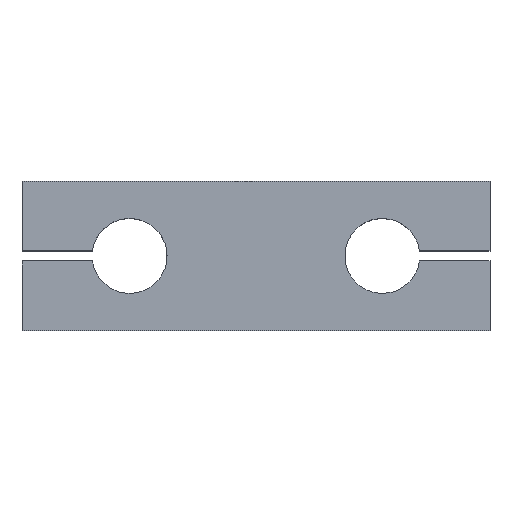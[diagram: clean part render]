
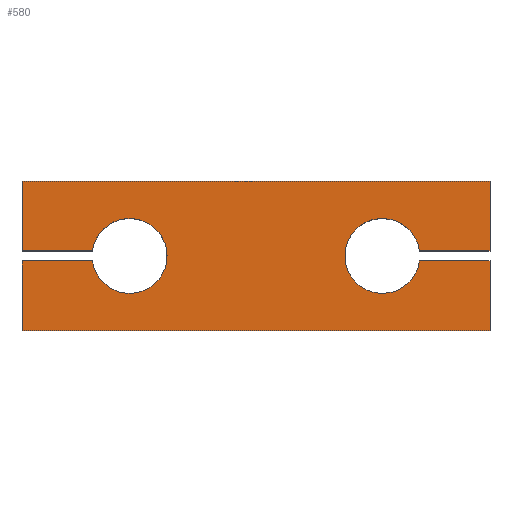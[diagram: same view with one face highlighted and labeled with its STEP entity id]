
A CAD part, top view. The second image highlights one B-rep face of the part: STEP entity #580.
In plain terms, the highlighted planar face has unit normal (0, 0, 1).
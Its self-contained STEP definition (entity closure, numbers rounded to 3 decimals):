
#12 = VECTOR ( 'NONE', #1127, 1000. ) ;
#26 = CARTESIAN_POINT ( 'NONE',  ( -50., -16., 9. ) ) ;
#41 = ORIENTED_EDGE ( 'NONE', *, *, #722, .T. ) ;
#43 = LINE ( 'NONE', #966, #486 ) ;
#46 = LINE ( 'NONE', #257, #1246 ) ;
#48 = VERTEX_POINT ( 'NONE', #976 ) ;
#63 = LINE ( 'NONE', #1301, #1327 ) ;
#81 = ORIENTED_EDGE ( 'NONE', *, *, #911, .T. ) ;
#85 = EDGE_CURVE ( 'NONE', #48, #597, #173, .T. ) ;
#98 = VERTEX_POINT ( 'NONE', #794 ) ;
#118 = CARTESIAN_POINT ( 'NONE',  ( -50., 16., 9. ) ) ;
#125 = DIRECTION ( 'NONE',  ( 1., 0., 0. ) ) ;
#129 = VERTEX_POINT ( 'NONE', #164 ) ;
#143 = CARTESIAN_POINT ( 'NONE',  ( 27., 0., 9. ) ) ;
#153 = ORIENTED_EDGE ( 'NONE', *, *, #890, .F. ) ;
#164 = CARTESIAN_POINT ( 'NONE',  ( -50., -16., 9. ) ) ;
#166 = FACE_OUTER_BOUND ( 'NONE', #469, .T. ) ;
#173 = LINE ( 'NONE', #489, #737 ) ;
#185 = AXIS2_PLACEMENT_3D ( 'NONE', #1215, #305, #706 ) ;
#188 = DIRECTION ( 'NONE',  ( 0., 0., 1. ) ) ;
#198 = VECTOR ( 'NONE', #945, 1000. ) ;
#219 = DIRECTION ( 'NONE',  ( 0., 1., 0. ) ) ;
#223 = VERTEX_POINT ( 'NONE', #1019 ) ;
#229 = CARTESIAN_POINT ( 'NONE',  ( 34.927, -1.075, 9. ) ) ;
#234 = EDGE_CURVE ( 'NONE', #965, #648, #300, .T. ) ;
#257 = CARTESIAN_POINT ( 'NONE',  ( 26., -1.075, 9. ) ) ;
#268 = VECTOR ( 'NONE', #609, 1000. ) ;
#277 = DIRECTION ( 'NONE',  ( 1., 0., 0. ) ) ;
#293 = LINE ( 'NONE', #696, #12 ) ;
#300 = LINE ( 'NONE', #617, #268 ) ;
#305 = DIRECTION ( 'NONE',  ( 0., 0., 1. ) ) ;
#323 = LINE ( 'NONE', #533, #983 ) ;
#331 = LINE ( 'NONE', #736, #198 ) ;
#332 = EDGE_CURVE ( 'NONE', #468, #98, #331, .T. ) ;
#348 = LINE ( 'NONE', #26, #826 ) ;
#359 = ORIENTED_EDGE ( 'NONE', *, *, #85, .T. ) ;
#370 = ORIENTED_EDGE ( 'NONE', *, *, #621, .T. ) ;
#371 = VERTEX_POINT ( 'NONE', #1163 ) ;
#402 = CIRCLE ( 'NONE', #185, 8. ) ;
#426 = VERTEX_POINT ( 'NONE', #229 ) ;
#437 = ORIENTED_EDGE ( 'NONE', *, *, #1152, .F. ) ;
#454 = DIRECTION ( 'NONE',  ( 1., 0., 0. ) ) ;
#468 = VERTEX_POINT ( 'NONE', #969 ) ;
#469 = EDGE_LOOP ( 'NONE', ( #1165, #512, #437, #1106, #41, #710, #81, #897, #153, #535, #1322, #370, #359 ) ) ;
#472 = DIRECTION ( 'NONE',  ( 1., 0., 0. ) ) ;
#484 = EDGE_CURVE ( 'NONE', #426, #1118, #46, .T. ) ;
#485 = CARTESIAN_POINT ( 'NONE',  ( -27., 0., 9. ) ) ;
#486 = VECTOR ( 'NONE', #1267, 1000. ) ;
#489 = CARTESIAN_POINT ( 'NONE',  ( -50., 16., 9. ) ) ;
#509 = DIRECTION ( 'NONE',  ( 0., -1., 0. ) ) ;
#512 = ORIENTED_EDGE ( 'NONE', *, *, #1036, .F. ) ;
#515 = CARTESIAN_POINT ( 'NONE',  ( -50., -1.075, 9. ) ) ;
#533 = CARTESIAN_POINT ( 'NONE',  ( 50., 16., 9. ) ) ;
#535 = ORIENTED_EDGE ( 'NONE', *, *, #1043, .F. ) ;
#580 = ADVANCED_FACE ( 'NONE', ( #166 ), #796, .T. ) ;
#597 = VERTEX_POINT ( 'NONE', #1204 ) ;
#609 = DIRECTION ( 'NONE',  ( 1., 0., 0. ) ) ;
#615 = CARTESIAN_POINT ( 'NONE',  ( -34.927, -1.075, 9. ) ) ;
#617 = CARTESIAN_POINT ( 'NONE',  ( -50., -1.075, 9. ) ) ;
#621 = EDGE_CURVE ( 'NONE', #98, #48, #63, .T. ) ;
#624 = CARTESIAN_POINT ( 'NONE',  ( 34.927, 1.075, 9. ) ) ;
#646 = AXIS2_PLACEMENT_3D ( 'NONE', #485, #188, #472 ) ;
#648 = VERTEX_POINT ( 'NONE', #615 ) ;
#661 = VERTEX_POINT ( 'NONE', #1032 ) ;
#686 = CARTESIAN_POINT ( 'NONE',  ( 0., 0., 9. ) ) ;
#692 = CARTESIAN_POINT ( 'NONE',  ( 50., -1.075, 9. ) ) ;
#696 = CARTESIAN_POINT ( 'NONE',  ( 26., 1.075, 9. ) ) ;
#706 = DIRECTION ( 'NONE',  ( 1., 0., 0. ) ) ;
#710 = ORIENTED_EDGE ( 'NONE', *, *, #817, .T. ) ;
#722 = EDGE_CURVE ( 'NONE', #965, #129, #831, .T. ) ;
#736 = CARTESIAN_POINT ( 'NONE',  ( 50., 16., 9. ) ) ;
#737 = VECTOR ( 'NONE', #1320, 1000. ) ;
#794 = CARTESIAN_POINT ( 'NONE',  ( 50., 16., 9. ) ) ;
#796 = PLANE ( 'NONE',  #1249 ) ;
#799 = EDGE_CURVE ( 'NONE', #371, #597, #43, .T. ) ;
#817 = EDGE_CURVE ( 'NONE', #129, #223, #348, .T. ) ;
#826 = VECTOR ( 'NONE', #855, 1000. ) ;
#831 = LINE ( 'NONE', #118, #933 ) ;
#855 = DIRECTION ( 'NONE',  ( 1., 0., 0. ) ) ;
#890 = EDGE_CURVE ( 'NONE', #902, #426, #898, .T. ) ;
#897 = ORIENTED_EDGE ( 'NONE', *, *, #484, .F. ) ;
#898 = CIRCLE ( 'NONE', #934, 8. ) ;
#902 = VERTEX_POINT ( 'NONE', #624 ) ;
#911 = EDGE_CURVE ( 'NONE', #223, #1118, #323, .T. ) ;
#933 = VECTOR ( 'NONE', #509, 1000. ) ;
#934 = AXIS2_PLACEMENT_3D ( 'NONE', #143, #951, #125 ) ;
#945 = DIRECTION ( 'NONE',  ( 0., 1., 0. ) ) ;
#951 = DIRECTION ( 'NONE',  ( 0., 0., 1. ) ) ;
#965 = VERTEX_POINT ( 'NONE', #515 ) ;
#966 = CARTESIAN_POINT ( 'NONE',  ( -50., 1.075, 9. ) ) ;
#969 = CARTESIAN_POINT ( 'NONE',  ( 50., 1.075, 9. ) ) ;
#976 = CARTESIAN_POINT ( 'NONE',  ( -50., 16., 9. ) ) ;
#983 = VECTOR ( 'NONE', #219, 1000. ) ;
#1019 = CARTESIAN_POINT ( 'NONE',  ( 50., -16., 9. ) ) ;
#1032 = CARTESIAN_POINT ( 'NONE',  ( -19., 0., 9. ) ) ;
#1036 = EDGE_CURVE ( 'NONE', #661, #371, #402, .T. ) ;
#1043 = EDGE_CURVE ( 'NONE', #468, #902, #293, .T. ) ;
#1106 = ORIENTED_EDGE ( 'NONE', *, *, #234, .F. ) ;
#1118 = VERTEX_POINT ( 'NONE', #692 ) ;
#1127 = DIRECTION ( 'NONE',  ( -1., 0., 0. ) ) ;
#1152 = EDGE_CURVE ( 'NONE', #648, #661, #1234, .T. ) ;
#1163 = CARTESIAN_POINT ( 'NONE',  ( -34.927, 1.075, 9. ) ) ;
#1165 = ORIENTED_EDGE ( 'NONE', *, *, #799, .F. ) ;
#1192 = DIRECTION ( 'NONE',  ( -1., 0., 0. ) ) ;
#1204 = CARTESIAN_POINT ( 'NONE',  ( -50., 1.075, 9. ) ) ;
#1215 = CARTESIAN_POINT ( 'NONE',  ( -27., 0., 9. ) ) ;
#1234 = CIRCLE ( 'NONE', #646, 8. ) ;
#1246 = VECTOR ( 'NONE', #454, 1000. ) ;
#1249 = AXIS2_PLACEMENT_3D ( 'NONE', #686, #1316, #277 ) ;
#1267 = DIRECTION ( 'NONE',  ( -1., 0., 0. ) ) ;
#1301 = CARTESIAN_POINT ( 'NONE',  ( -50., 16., 9. ) ) ;
#1316 = DIRECTION ( 'NONE',  ( 0., 0., 1. ) ) ;
#1320 = DIRECTION ( 'NONE',  ( 0., -1., 0. ) ) ;
#1322 = ORIENTED_EDGE ( 'NONE', *, *, #332, .T. ) ;
#1327 = VECTOR ( 'NONE', #1192, 1000. ) ;
